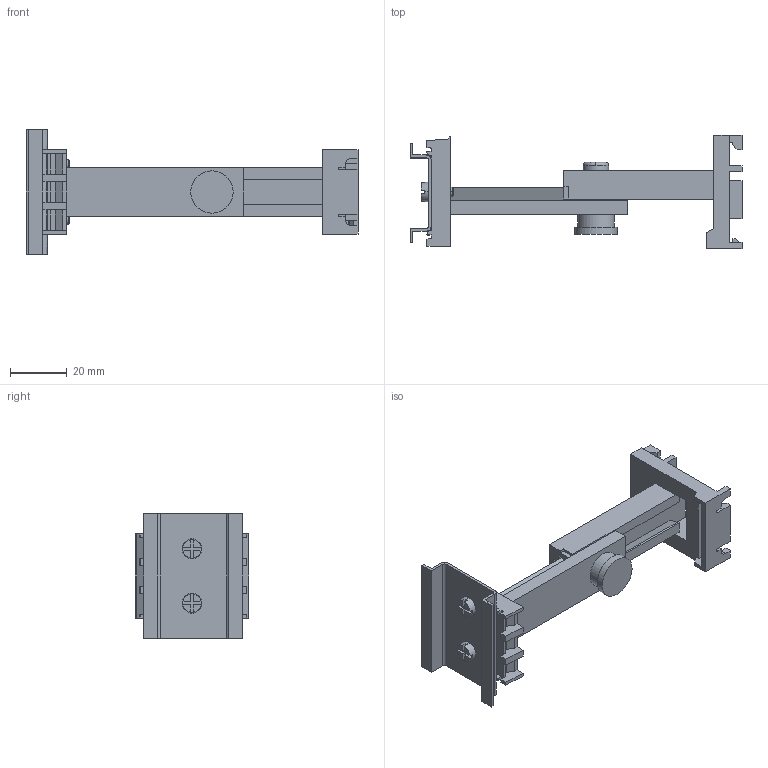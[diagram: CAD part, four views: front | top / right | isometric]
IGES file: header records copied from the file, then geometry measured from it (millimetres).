
Start section: Data from XPlus IGES,  Spatial Corp. Copyright (c) 1999-2004
Global section: file name: 226161.igs; native system:  By Spatial Corp.; preprocessor: XPlus ACIS/IGES 3.0; author: Noname; organization: Noname; date: 20120614.162252; units: millimetre
Bounding box: 117.5 x 40 x 44 mm (x, y, z)
Surface area: 18787.1 mm2 (no closed solid volume)
Topology: 0 solids, 0 shells, 251 faces, 1456 edges, 1456 vertices
Faces by surface type: extrusion 206, revolution 45
